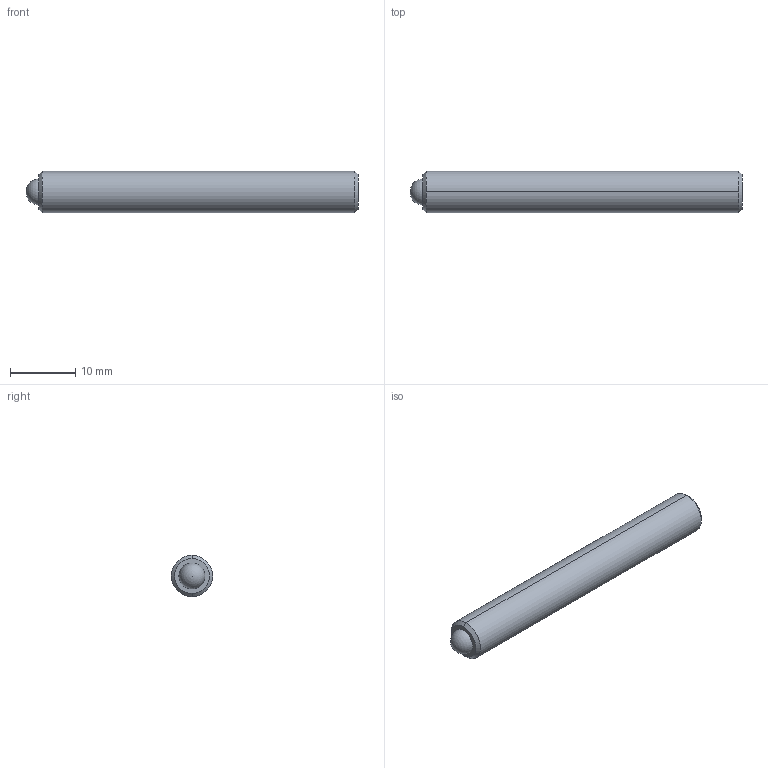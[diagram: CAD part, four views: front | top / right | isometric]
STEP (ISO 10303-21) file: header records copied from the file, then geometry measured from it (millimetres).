
FILE_DESCRIPTION (( 'STEP AP214' ), '1' );
FILE_NAME ('TS250-80-2000-HV.STEP', '2013-05-09T12:59:08', ( 'workpc' ), ( 'Microsoft' ), 'SwSTEP 2.0', 'SolidWorks 2013', '' );
FILE_SCHEMA (( 'AUTOMOTIVE_DESIGN' ));
Length unit declared in the file: inch
Products named in the file (1): TS250-80-2000-HV
Bounding box: 50.8 x 6.35 x 6.35 mm (x, y, z)
Volume: 1538.1 mm3; surface area: 1117.8 mm2
Topology: 2 solids, 2 shells, 29 faces, 69 edges, 44 vertices
Faces by surface type: cylinder 12, plane 11, cone 4, sphere 2
Entity records: 886 total; most frequent: DIRECTION 149, CARTESIAN_POINT 144, ORIENTED_EDGE 128, EDGE_CURVE 64, AXIS2_PLACEMENT_3D 58, VERTEX_POINT 41, LINE 33, VECTOR 33
